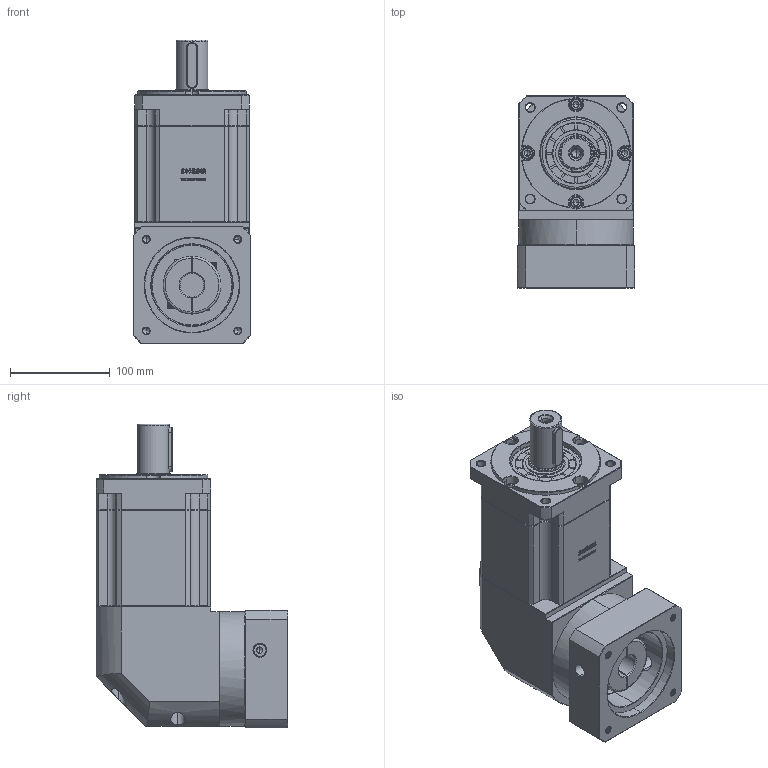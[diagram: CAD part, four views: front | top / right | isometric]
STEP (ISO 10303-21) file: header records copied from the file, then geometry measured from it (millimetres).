
FILE_DESCRIPTION (( 'STEP AP214' ), '1' );
FILE_NAME ('ZBR115A-D32-L3-24-95-130-M8.step', '2023-03-03T05:04:32', ( '' ), ( 'Microsoft' ), 'SwSTEP 2.0', 'SolidWorks 2016', '' );
FILE_SCHEMA (( 'AUTOMOTIVE_DESIGN' ));
Length unit declared in the file: millimetre
Products named in the file (1): ZBR115A-D32-L3-24-95-130-M8
Bounding box: 118 x 192.4 x 305 mm (x, y, z)
Volume: 3632486.1 mm3; surface area: 272027.5 mm2
Topology: 6 solids, 6 shells, 2982 faces, 7923 edges, 5087 vertices
Faces by surface type: plane 1559, bspline 606, cylinder 439, cone 370, torus 8
Entity records: 162116 total; most frequent: CARTESIAN_POINT 60064, ORIENTED_EDGE 15786, DIRECTION 11958, EDGE_CURVE 7893, VECTOR 5308, LINE 5308, VERTEX_POINT 5087, AXIS2_PLACEMENT_3D 3325
